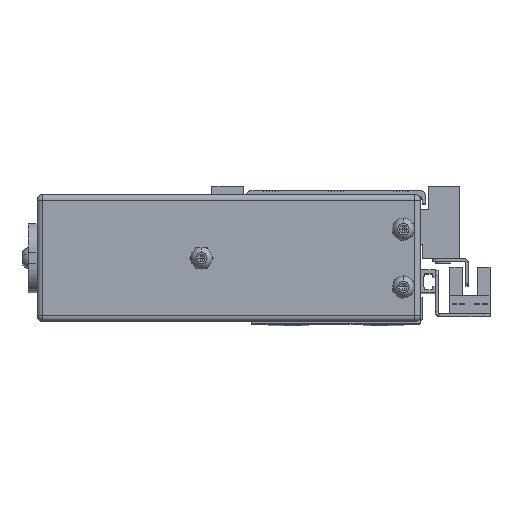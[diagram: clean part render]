
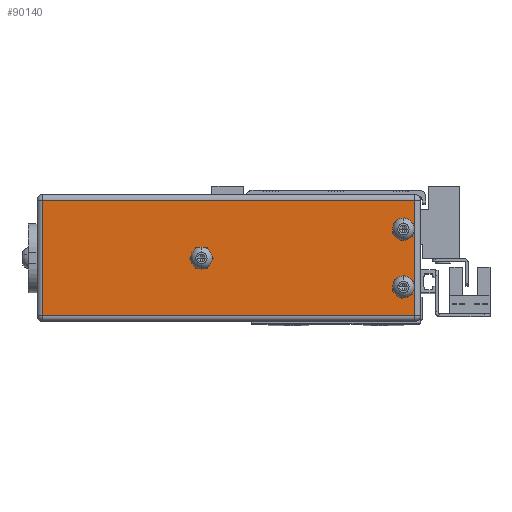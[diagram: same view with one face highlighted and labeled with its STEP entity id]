
A CAD part, top view. The second image highlights one B-rep face of the part: STEP entity #90140.
In plain terms, the highlighted planar face has unit normal (0, 0, 1).
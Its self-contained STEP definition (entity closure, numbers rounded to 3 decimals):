
#1260 = EDGE_LOOP ( 'NONE', ( #4067, #56423 ) ) ;
#4067 = ORIENTED_EDGE ( 'NONE', *, *, #58863, .F. ) ;
#4355 = EDGE_CURVE ( 'NONE', #150338, #147243, #179174, .T. ) ;
#7613 = CARTESIAN_POINT ( 'NONE',  ( 14.839, -9.079, 163. ) ) ;
#8510 = DIRECTION ( 'NONE',  ( 0., 0., 1. ) ) ;
#10168 = VERTEX_POINT ( 'NONE', #52187 ) ;
#11435 = CIRCLE ( 'NONE', #156290, 2.25 ) ;
#14001 = DIRECTION ( 'NONE',  ( 0., 0., 1. ) ) ;
#20476 = VERTEX_POINT ( 'NONE', #90355 ) ;
#20508 = ORIENTED_EDGE ( 'NONE', *, *, #157901, .T. ) ;
#21870 = DIRECTION ( 'NONE',  ( 0., 0., 1. ) ) ;
#25171 = DIRECTION ( 'NONE',  ( 0., 0., -1. ) ) ;
#26921 = AXIS2_PLACEMENT_3D ( 'NONE', #111159, #14001, #151003 ) ;
#28193 = CIRCLE ( 'NONE', #96489, 2.25 ) ;
#28844 = DIRECTION ( 'NONE',  ( 0., -1., 0. ) ) ;
#29175 = VECTOR ( 'NONE', #56374, 1000. ) ;
#30014 = LINE ( 'NONE', #154355, #157337 ) ;
#33097 = DIRECTION ( 'NONE',  ( 1., 0., 0. ) ) ;
#34813 = CARTESIAN_POINT ( 'NONE',  ( -110.161, 20.921, 163. ) ) ;
#36527 = ORIENTED_EDGE ( 'NONE', *, *, #119693, .T. ) ;
#39574 = DIRECTION ( 'NONE',  ( 0., 1., 0. ) ) ;
#41782 = EDGE_CURVE ( 'NONE', #10168, #151987, #167468, .T. ) ;
#42883 = CARTESIAN_POINT ( 'NONE',  ( -112.411, 0.921, 163. ) ) ;
#44679 = ORIENTED_EDGE ( 'NONE', *, *, #163124, .F. ) ;
#47706 = CIRCLE ( 'NONE', #56749, 2.25 ) ;
#48049 = CIRCLE ( 'NONE', #63706, 2.25 ) ;
#49047 = VECTOR ( 'NONE', #39574, 1000. ) ;
#52187 = CARTESIAN_POINT ( 'NONE',  ( 14.839, 30.921, 163. ) ) ;
#54560 = CARTESIAN_POINT ( 'NONE',  ( 14.839, -11.079, 163. ) ) ;
#55350 = EDGE_LOOP ( 'NONE', ( #96161, #60079, #20508, #36527 ) ) ;
#55778 = DIRECTION ( 'NONE',  ( 1., 0., 0. ) ) ;
#56374 = DIRECTION ( 'NONE',  ( 1., 0., 0. ) ) ;
#56423 = ORIENTED_EDGE ( 'NONE', *, *, #69417, .F. ) ;
#56475 = CIRCLE ( 'NONE', #149400, 2.25 ) ;
#56749 = AXIS2_PLACEMENT_3D ( 'NONE', #101211, #130755, #33097 ) ;
#58863 = EDGE_CURVE ( 'NONE', #168399, #69010, #56475, .T. ) ;
#60079 = ORIENTED_EDGE ( 'NONE', *, *, #41782, .T. ) ;
#61589 = DIRECTION ( 'NONE',  ( 1., 0., 0. ) ) ;
#61676 = FACE_BOUND ( 'NONE', #1260, .T. ) ;
#63706 = AXIS2_PLACEMENT_3D ( 'NONE', #124030, #67907, #55778 ) ;
#64203 = CARTESIAN_POINT ( 'NONE',  ( -116.161, 30.921, 163. ) ) ;
#65814 = LINE ( 'NONE', #70240, #29175 ) ;
#67907 = DIRECTION ( 'NONE',  ( 0., 0., 1. ) ) ;
#68287 = ORIENTED_EDGE ( 'NONE', *, *, #117057, .F. ) ;
#69010 = VERTEX_POINT ( 'NONE', #128342 ) ;
#69417 = EDGE_CURVE ( 'NONE', #69010, #168399, #47706, .T. ) ;
#70240 = CARTESIAN_POINT ( 'NONE',  ( -116.161, -9.079, 163. ) ) ;
#72306 = VECTOR ( 'NONE', #76889, 1000. ) ;
#75604 = VERTEX_POINT ( 'NONE', #78022 ) ;
#76740 = FACE_OUTER_BOUND ( 'NONE', #55350, .T. ) ;
#76889 = DIRECTION ( 'NONE',  ( -1., 0., 0. ) ) ;
#78022 = CARTESIAN_POINT ( 'NONE',  ( -42.411, 10.921, 163. ) ) ;
#90140 = ADVANCED_FACE ( 'NONE', ( #150263, #152510, #61676, #76740 ), #137251, .F. ) ;
#90355 = CARTESIAN_POINT ( 'NONE',  ( -114.161, -9.079, 163. ) ) ;
#93877 = CARTESIAN_POINT ( 'NONE',  ( -116.161, -11.079, 163. ) ) ;
#96161 = ORIENTED_EDGE ( 'NONE', *, *, #158366, .T. ) ;
#96489 = AXIS2_PLACEMENT_3D ( 'NONE', #131624, #8510, #61589 ) ;
#101204 = ORIENTED_EDGE ( 'NONE', *, *, #4355, .F. ) ;
#101211 = CARTESIAN_POINT ( 'NONE',  ( -110.161, 20.921, 163. ) ) ;
#102110 = AXIS2_PLACEMENT_3D ( 'NONE', #93877, #25171, #150582 ) ;
#104631 = VERTEX_POINT ( 'NONE', #123001 ) ;
#109487 = LINE ( 'NONE', #54560, #49047 ) ;
#111159 = CARTESIAN_POINT ( 'NONE',  ( -110.161, 0.921, 163. ) ) ;
#112673 = CARTESIAN_POINT ( 'NONE',  ( -114.161, 30.921, 163. ) ) ;
#117057 = EDGE_CURVE ( 'NONE', #104631, #75604, #48049, .T. ) ;
#118425 = DIRECTION ( 'NONE',  ( 1., 0., 0. ) ) ;
#118959 = CARTESIAN_POINT ( 'NONE',  ( -107.911, 0.921, 163. ) ) ;
#119693 = EDGE_CURVE ( 'NONE', #20476, #167177, #65814, .T. ) ;
#123001 = CARTESIAN_POINT ( 'NONE',  ( -37.911, 10.921, 163. ) ) ;
#124030 = CARTESIAN_POINT ( 'NONE',  ( -40.161, 10.921, 163. ) ) ;
#128342 = CARTESIAN_POINT ( 'NONE',  ( -112.411, 20.921, 163. ) ) ;
#130755 = DIRECTION ( 'NONE',  ( 0., 0., 1. ) ) ;
#131300 = DIRECTION ( 'NONE',  ( 0., 0., 1. ) ) ;
#131624 = CARTESIAN_POINT ( 'NONE',  ( -110.161, 0.921, 163. ) ) ;
#131658 = CARTESIAN_POINT ( 'NONE',  ( -40.161, 10.921, 163. ) ) ;
#132684 = CARTESIAN_POINT ( 'NONE',  ( -107.911, 20.921, 163. ) ) ;
#137251 = PLANE ( 'NONE',  #102110 ) ;
#147243 = VERTEX_POINT ( 'NONE', #118959 ) ;
#149400 = AXIS2_PLACEMENT_3D ( 'NONE', #34813, #131300, #173047 ) ;
#150263 = FACE_BOUND ( 'NONE', #155190, .T. ) ;
#150338 = VERTEX_POINT ( 'NONE', #42883 ) ;
#150582 = DIRECTION ( 'NONE',  ( -1., 0., 0. ) ) ;
#151003 = DIRECTION ( 'NONE',  ( 1., 0., 0. ) ) ;
#151987 = VERTEX_POINT ( 'NONE', #112673 ) ;
#152510 = FACE_BOUND ( 'NONE', #174457, .T. ) ;
#154355 = CARTESIAN_POINT ( 'NONE',  ( -114.161, -11.079, 163. ) ) ;
#155190 = EDGE_LOOP ( 'NONE', ( #68287, #44679 ) ) ;
#156290 = AXIS2_PLACEMENT_3D ( 'NONE', #131658, #21870, #118425 ) ;
#156747 = ORIENTED_EDGE ( 'NONE', *, *, #176667, .F. ) ;
#157337 = VECTOR ( 'NONE', #28844, 1000. ) ;
#157901 = EDGE_CURVE ( 'NONE', #151987, #20476, #30014, .T. ) ;
#158366 = EDGE_CURVE ( 'NONE', #167177, #10168, #109487, .T. ) ;
#163124 = EDGE_CURVE ( 'NONE', #75604, #104631, #11435, .T. ) ;
#167177 = VERTEX_POINT ( 'NONE', #7613 ) ;
#167468 = LINE ( 'NONE', #64203, #72306 ) ;
#168399 = VERTEX_POINT ( 'NONE', #132684 ) ;
#173047 = DIRECTION ( 'NONE',  ( 1., 0., 0. ) ) ;
#174457 = EDGE_LOOP ( 'NONE', ( #156747, #101204 ) ) ;
#176667 = EDGE_CURVE ( 'NONE', #147243, #150338, #28193, .T. ) ;
#179174 = CIRCLE ( 'NONE', #26921, 2.25 ) ;
